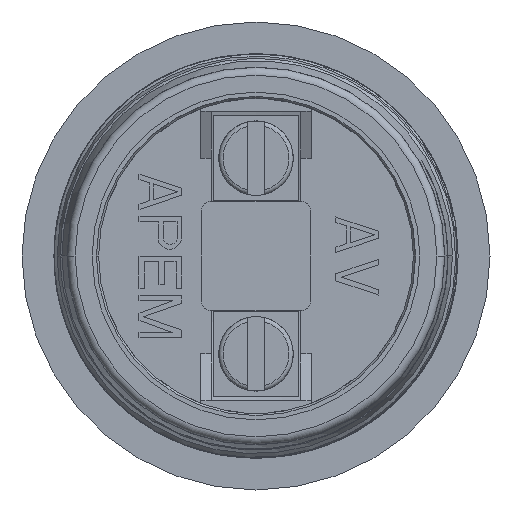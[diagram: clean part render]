
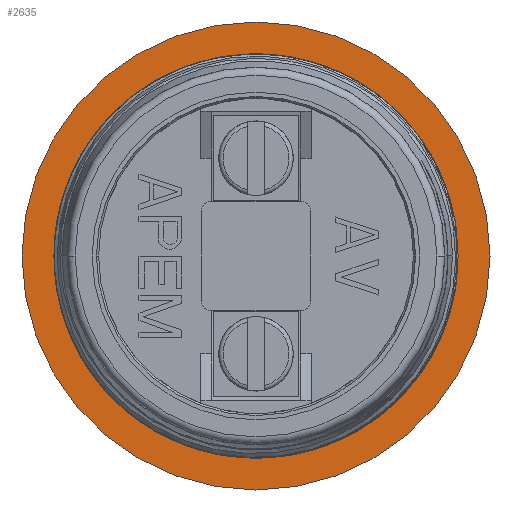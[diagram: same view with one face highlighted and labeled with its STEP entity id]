
A CAD part, front view. The second image highlights one B-rep face of the part: STEP entity #2635.
In plain terms, the highlighted planar face has unit normal (0, -1, 0).
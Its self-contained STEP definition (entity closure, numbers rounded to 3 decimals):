
#21=CARTESIAN_POINT('',(0.,0.,0.));
#22=DIRECTION('',(0.,1.,0.));
#23=DIRECTION('',(-1.,0.,0.));
#24=AXIS2_PLACEMENT_3D('',#21,#22,#23);
#26=CARTESIAN_POINT('',(0.,0.,0.));
#27=DIRECTION('',(0.,-1.,0.));
#28=DIRECTION('',(-1.,0.,0.));
#29=AXIS2_PLACEMENT_3D('',#26,#27,#28);
#83=CARTESIAN_POINT('',(0.,0.,0.));
#84=DIRECTION('',(0.,-1.,0.));
#85=DIRECTION('',(-1.,0.,0.));
#86=AXIS2_PLACEMENT_3D('',#83,#84,#85);
#805=CARTESIAN_POINT('',(0.,0.,0.));
#806=DIRECTION('',(0.,1.,0.));
#807=DIRECTION('',(-1.,0.,0.));
#808=AXIS2_PLACEMENT_3D('',#805,#806,#807);
#2450=CARTESIAN_POINT('',(-11.,0.,0.));
#2451=VERTEX_POINT('',#2450);
#2456=CARTESIAN_POINT('',(11.,0.,0.));
#2457=VERTEX_POINT('',#2456);
#2497=CARTESIAN_POINT('',(9.5,0.,0.));
#2499=VERTEX_POINT('',#2497);
#2505=CARTESIAN_POINT('',(-9.5,0.,0.));
#2506=VERTEX_POINT('',#2505);
#2619=CARTESIAN_POINT('',(0.,0.,0.));
#2620=DIRECTION('',(0.,-1.,0.));
#2621=DIRECTION('',(-1.,0.,0.));
#2622=AXIS2_PLACEMENT_3D('',#2619,#2620,#2621);
#2623=PLANE('',#2622);
#2625=ORIENTED_EDGE('',*,*,#2624,.T.);
#2626=ORIENTED_EDGE('',*,*,#2611,.F.);
#2627=EDGE_LOOP('',(#2625,#2626));
#2628=FACE_OUTER_BOUND('',#2627,.F.);
#2630=ORIENTED_EDGE('',*,*,#2629,.T.);
#2632=ORIENTED_EDGE('',*,*,#2631,.F.);
#2633=EDGE_LOOP('',(#2630,#2632));
#2634=FACE_BOUND('',#2633,.F.);
#2635=ADVANCED_FACE('',(#2628,#2634),#2623,.T.);
#25=CIRCLE('',#24,11.);
#30=CIRCLE('',#29,11.);
#87=CIRCLE('',#86,9.5);
#809=CIRCLE('',#808,9.5);
#2611=EDGE_CURVE('',#2451,#2457,#30,.T.);
#2624=EDGE_CURVE('',#2451,#2457,#25,.T.);
#2629=EDGE_CURVE('',#2506,#2499,#87,.T.);
#2631=EDGE_CURVE('',#2506,#2499,#809,.T.);
